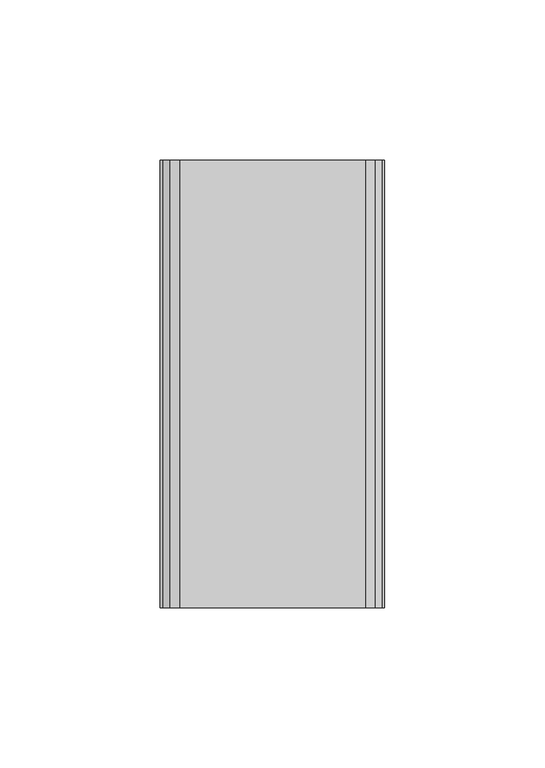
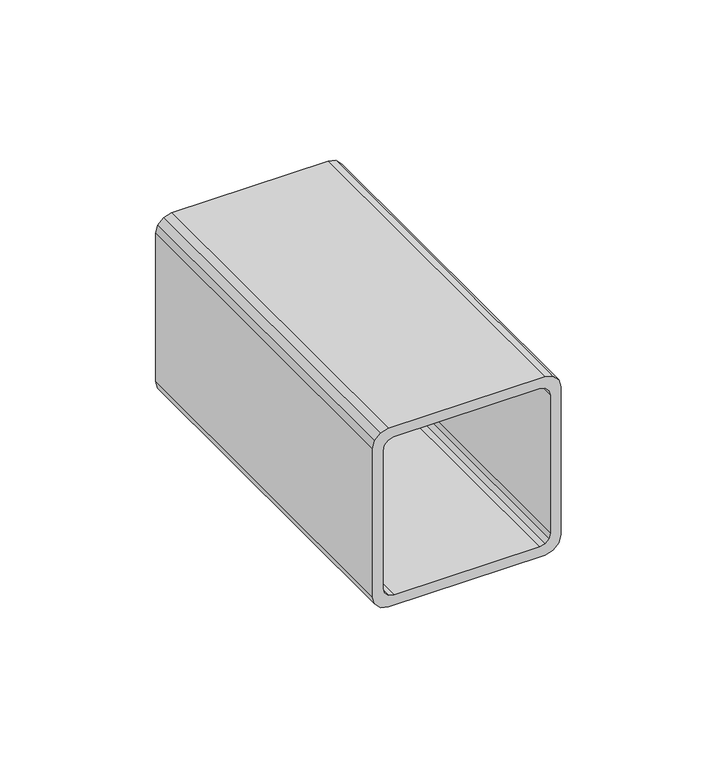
"""IFC4 building model written with IfcOpenShell, lengths in millimetres: beam geometry,  149439 :  149439."""

from ifc_helpers import new_model, si_unit, frame, origin, place, context, project, spatial, polyline, outline, extrude, source, transform, mapped, element, save


def beam_6ba09a8e(model_context):
    return source(origin(), model_context, "Body", "SweptSolid", [
        extrude(outline(polyline([(3090.9478709, 15154.9999999), (3087.9478709, 15155.8038474), (3085.7517184, 15157.9999999), (3084.9478709, 15160.9999999), (3084.9478709, 15218.9999999), (3085.7517184, 15221.9999999), (3087.9478709, 15224.1961523), (3090.9478709, 15224.9999999), (3148.9478709, 15224.9999999), (3151.9478709, 15224.1961523), (3154.1440233, 15221.9999999), (3154.9478709, 15218.9999999), (3154.9478709, 15160.9999999), (3154.1440233, 15157.9999999), (3151.9478709, 15155.8038474), (3148.9478709, 15154.9999999), (3090.9478709, 15154.9999999)]), holes=[polyline([(3146.9478709, 15158.9999999), (3148.9478709, 15159.5358983), (3150.4119725, 15160.9999999), (3150.9478709, 15162.9999999), (3150.9478709, 15216.9999999), (3150.4119725, 15218.9999999), (3148.9478709, 15220.4641015), (3146.9478709, 15220.9999999), (3092.9478709, 15220.9999999), (3090.9478709, 15220.4641015), (3089.4837692, 15218.9999999), (3088.9478709, 15216.9999999), (3088.9478709, 15162.9999999), (3089.4837692, 15160.9999999), (3090.9478709, 15159.5358983), (3092.9478709, 15158.9999999), (3146.9478709, 15158.9999999)])]), frame((0.0, -114.45, 0.0), z_axis=(0.0, 1.0, 0.0), x_axis=(0.0, 0.0, 1.0)), (0.0, 0.0, 1.0), 139.45),
    ])


if __name__ == "__main__":
    model = new_model("IFC4")
    model_context = context("Model", 3, world=origin())
    ifc_project = project(units=[si_unit("LENGTHUNIT", "METRE", prefix="MILLI")], contexts=[model_context])
    site = spatial("IfcSite", under=ifc_project)
    building = spatial("IfcBuilding", under=site)
    placement = place(None, origin())
    beam_shape = beam_6ba09a8e(model_context)
    element("IfcBeam", 1, ObjectType=" 149439 :  149439", at=placement, inside=building, context=model_context, shape_type="MappedRepresentation", body=[
        mapped(beam_shape, transform((0.0, 0.0, 0.0), x_axis=(1.0, 0.0, 0.0), y_axis=(0.0, 1.0, 0.0), z_axis=(0.0, 0.0, 1.0))),
    ])
    save(model, "model.ifc")
